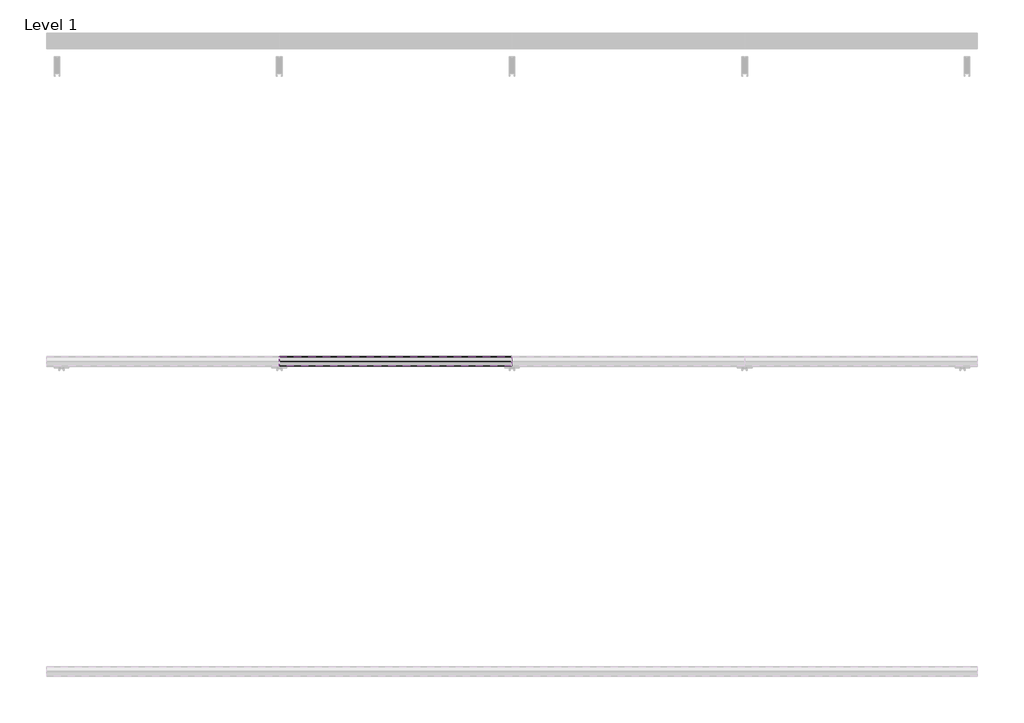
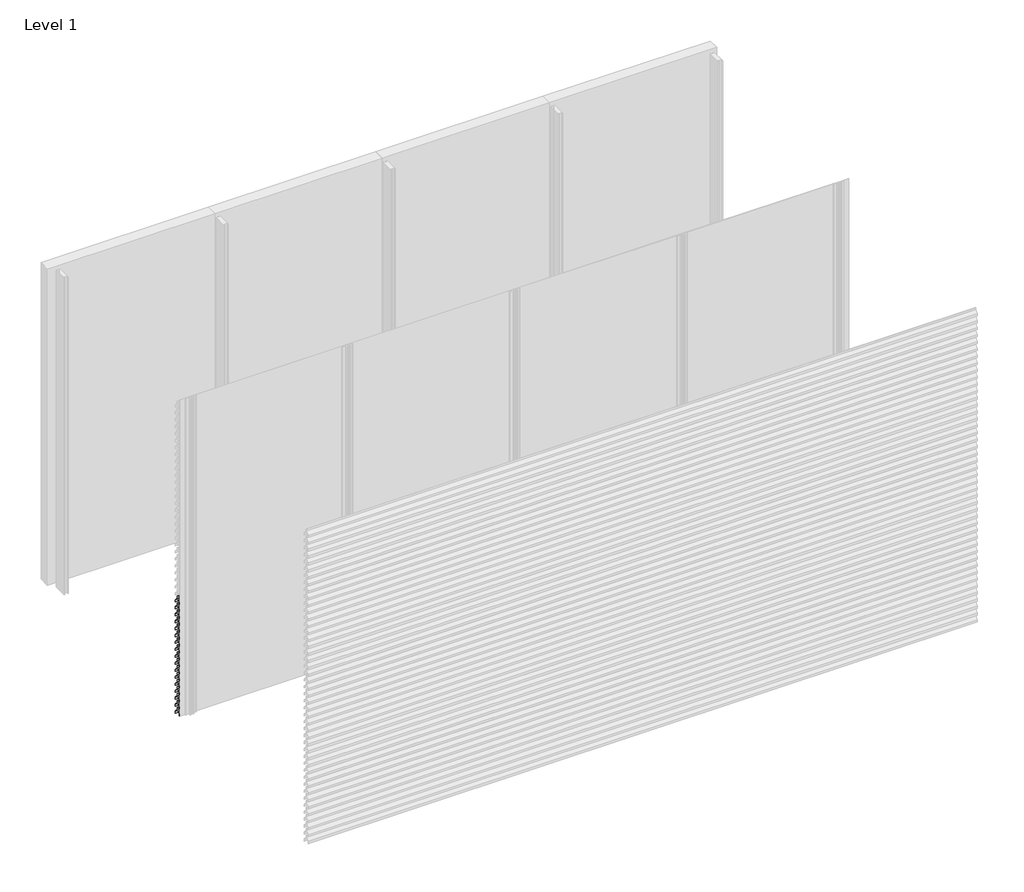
# One storey, part 4 of 35: 70 proxies.
"""IFC4 building model written with IfcOpenShell, lengths in millimetres."""

import ifcopenshell
import ifcopenshell.guid

model = None  # the IFC model being written
_history = None  # IfcOwnerHistory: only IFC2X3 demands one
_inside = {}  # id of a spatial element -> (the spatial element, [elements in it])
_under = {}  # id of a project, library or spatial element -> (it, [spatial elements below it])
_declared = {}  # id of a project -> (the project, [libraries it declares])
_typed = {}  # id of a type object -> (the type object, [elements of that type])
_made_of = {}  # id of a material, layer set ... -> (it, [elements and type objects made of it])


def new_model(schema):
    """Start an empty IFC model of exactly this schema.

    Asked for "IFC4X3", IfcOpenShell would pick the latest addendum, in which some entities
    have other attributes; the version numbers below select the first issue.
    IFC2X3 requires an IfcOwnerHistory on every rooted entity: one is made here for all.
    """
    global model, _history
    if schema == "IFC4X3":
        model = ifcopenshell.file(schema_version=(4, 3, 0, 0))
    else:
        model = ifcopenshell.file(schema=schema)
    _inside.clear()
    _under.clear()
    _declared.clear()
    _typed.clear()
    _made_of.clear()
    _history = None
    if model.schema == "IFC2X3":
        org = make("IfcOrganization", Name="unknown")
        user = make(
            "IfcPersonAndOrganization",
            ThePerson=make("IfcPerson", FamilyName="unknown"),
            TheOrganization=org,
        )
        app = make(
            "IfcApplication",
            ApplicationDeveloper=org,
            Version="unknown",
            ApplicationFullName="unknown",
            ApplicationIdentifier="unknown",
        )
        _history = make(
            "IfcOwnerHistory",
            OwningUser=user,
            OwningApplication=app,
            ChangeAction="ADDED",
            CreationDate=0,
        )
    return model


def make(cls, **values):
    """One entity of the class cls with the attributes given. An attribute that is None is left unset."""
    return model.create_entity(
        cls, **{name: value for name, value in values.items() if value is not None}
    )


def rooted(cls, **values):
    """An entity with a GlobalId (a new one), such as an element, a storey or a relation."""
    return make(cls, GlobalId=ifcopenshell.guid.new(), OwnerHistory=_history, **values)


def si_unit(unit_type, name, prefix=None):
    """IfcSIUnit, for example si_unit("LENGTHUNIT", "METRE", prefix="MILLI")."""
    return make("IfcSIUnit", UnitType=unit_type, Prefix=prefix, Name=name)


def assignment(units):
    """IfcUnitAssignment: the units of a project."""
    return None if units is None else make("IfcUnitAssignment", Units=units)


def point(xyz):
    """IfcCartesianPoint."""
    return None if xyz is None else make("IfcCartesianPoint", Coordinates=xyz)


def direction(xyz):
    """IfcDirection."""
    return None if xyz is None else make("IfcDirection", DirectionRatios=xyz)


def frame(location, z_axis=None, x_axis=None):
    """IfcAxis2Placement3D, a coordinate frame: its origin and axes. An axis left out is left unset."""
    return make(
        "IfcAxis2Placement3D",
        Location=point(location),
        Axis=direction(z_axis),
        RefDirection=direction(x_axis),
    )


def origin():
    """The frame at (0, 0, 0) with its axes left unset."""
    return frame((0.0, 0.0, 0.0))


def place(relative_to, where):
    """IfcLocalPlacement: puts the frame where relative to a parent placement (None: the world)."""
    return make(
        "IfcLocalPlacement", PlacementRelTo=relative_to, RelativePlacement=where
    )


def context(
    kind, dimensions, precision=None, world=None, true_north=None, identifier=None
):
    """IfcGeometricRepresentationContext, for example the 3D "Model" context."""
    return make(
        "IfcGeometricRepresentationContext",
        ContextIdentifier=identifier,
        ContextType=kind,
        CoordinateSpaceDimension=dimensions,
        Precision=precision,
        WorldCoordinateSystem=world,
        TrueNorth=true_north,
    )


def project(units=None, contexts=None):
    """IfcProject with its units and contexts."""
    return rooted(
        "IfcProject",
        Name="project",
        RepresentationContexts=contexts,
        UnitsInContext=assignment(units),
    )


def spatial(cls, under=None, at=None, **own):
    """A site, building, storey or space (cls), placed at a placement, below another one or the project."""
    s = rooted(cls, ObjectPlacement=at, **own)
    if under is not None:
        _under.setdefault(under.id(), (under, []))[1].append(s)
    return s


def polyline(points):
    """IfcPolyline through the points."""
    return make("IfcPolyline", Points=[point(p) for p in points])


def outline(outer, holes=None, kind="AREA"):
    """IfcArbitraryClosedProfileDef: a profile drawn as a closed curve; with holes, ...WithVoids."""
    if holes is None:
        return make("IfcArbitraryClosedProfileDef", ProfileType=kind, OuterCurve=outer)
    return make(
        "IfcArbitraryProfileDefWithVoids",
        ProfileType=kind,
        OuterCurve=outer,
        InnerCurves=holes,
    )


def extrude(swept, where, along, depth):
    """IfcExtrudedAreaSolid: the profile swept, set in the frame where, extruded along a direction by depth."""
    return make(
        "IfcExtrudedAreaSolid",
        SweptArea=swept,
        Position=where,
        ExtrudedDirection=direction(along),
        Depth=depth,
    )


def shape(context_of_items, identifier, shape_type, items):
    """IfcShapeRepresentation: the items that make up one representation, for example the "Body"."""
    return make(
        "IfcShapeRepresentation",
        ContextOfItems=context_of_items,
        RepresentationIdentifier=identifier,
        RepresentationType=shape_type,
        Items=items,
    )


def made_of(thing, what):
    """Note that an element or type object is made of a material, layer set ...; save() writes the relation."""
    if what is not None:
        _made_of.setdefault(what.id(), (what, []))[1].append(thing)
    return thing


def element(
    cls,
    number,
    at=None,
    inside=None,
    cuts=None,
    type_object=None,
    material=None,
    context=None,
    identifier="Body",
    shape_type=None,
    held_by="IfcProductDefinitionShape",
    body=None,
    shapes=None,
    **own,
):
    """One element of the class cls, such as IfcWall. Its Tag is "e" and its number.

    at: its placement. inside: the storey or other place that contains it. cuts: it is an
    opening in that element (IfcRelVoidsElement). A single representation is given by context,
    identifier, shape_type and body (its items); several are given by shapes. held_by: the class
    of the entity that holds the representations. save() writes the other relations.
    """
    e = rooted(cls, Tag="e%d" % number, ObjectPlacement=at, **own)
    if body is not None:
        shapes = [shape(context, identifier, shape_type, body)]
    if shapes is not None:
        e.Representation = make(held_by, Representations=shapes)
    if inside is not None:
        _inside.setdefault(inside.id(), (inside, []))[1].append(e)
    if cuts is not None:
        rooted(
            "IfcRelVoidsElement", RelatingBuildingElement=cuts, RelatedOpeningElement=e
        )
    if type_object is not None:
        _typed.setdefault(type_object.id(), (type_object, []))[1].append(e)
    return made_of(e, material)


def aggregate(whole, parts):
    """IfcRelAggregates: a whole, such as a stair, and the parts it consists of."""
    return rooted("IfcRelAggregates", RelatingObject=whole, RelatedObjects=parts)


def save(model, path):
    """Write the relations noted so far, then the file.

    IfcRelAggregates (storeys below a building ...), IfcRelContainedInSpatialStructure (elements
    in a storey), IfcRelDefinesByType, IfcRelAssociatesMaterial and IfcRelDeclares: one each for
    every whole, place, type object, material and project.
    """
    for whole, parts in _under.values():
        aggregate(whole, parts)
    for where, things in _inside.values():
        rooted(
            "IfcRelContainedInSpatialStructure",
            RelatedElements=things,
            RelatingStructure=where,
        )
    for kind, things in _typed.values():
        rooted("IfcRelDefinesByType", RelatedObjects=things, RelatingType=kind)
    for what, things in _made_of.values():
        rooted("IfcRelAssociatesMaterial", RelatedObjects=things, RelatingMaterial=what)
    for by, libraries in _declared.values():
        rooted("IfcRelDeclares", RelatingContext=by, RelatedDefinitions=libraries)
    model.write(path)


model = new_model("IFC4")

# Units and contexts
model_context = context("Model", 3, world=origin())
ifc_project = project(units=[si_unit("LENGTHUNIT", "METRE", prefix="MILLI")], contexts=[model_context])

# Site, building, storey
site = spatial("IfcSite", under=ifc_project)
building = spatial("IfcBuilding", under=site)
storey = spatial("IfcBuildingStorey", under=building, Name="Level 1", Elevation=0.0)

# Proxies
placement = place(None, origin())
element("IfcBuildingElementProxy", 1, Name="Wall Sweeps", at=placement, inside=storey, context=model_context, shape_type="SweptSolid", body=[
    extrude(outline(polyline([(-53936.0, 1068.0), (-53936.0, 1048.0), (-53937.25, 1048.0), (-53937.25, 1067.4342979), (-53968.1138939, 1100.531772), (-53996.7, 1080.4392868), (-53996.7, 1061.6629874), (-53998.0, 1060.8506572), (-53998.0, 1081.1145472), (-53968.537525, 1101.823011), (-53968.537525, 1122.0), (-53967.1772624, 1122.0), (-53967.1772624, 1101.4335207), (-53936.0, 1068.0)])), frame((0.0, 0.0, 0.0), z_axis=(1.0, 0.0, 0.0), x_axis=(0.0, 1.0, 0.0)), (0.0, 0.0, 1.0), 1500.0),
])
element("IfcBuildingElementProxy", 2, Name="Wall Sweeps", at=placement, inside=storey, context=model_context, shape_type="SweptSolid", body=[
    extrude(outline(polyline([(-53936.0, 1002.0), (-53936.0, 982.0), (-53937.25, 982.0), (-53937.25, 1001.4342979), (-53968.1138939, 1034.531772), (-53996.7, 1014.4392868), (-53996.7, 995.6629874), (-53998.0, 994.8506572), (-53998.0, 1015.1145472), (-53968.537525, 1035.823011), (-53968.537525, 1056.0), (-53967.1772624, 1056.0), (-53967.1772624, 1035.4335207), (-53936.0, 1002.0)])), frame((0.0, 0.0, 0.0), z_axis=(1.0, 0.0, 0.0), x_axis=(0.0, 1.0, 0.0)), (0.0, 0.0, 1.0), 1500.0),
])
element("IfcBuildingElementProxy", 3, Name="Wall Sweeps", at=placement, inside=storey, context=model_context, shape_type="SweptSolid", body=[
    extrude(outline(polyline([(-53936.0, 936.0), (-53936.0, 916.0), (-53937.25, 916.0), (-53937.25, 935.4342979), (-53968.1138939, 968.531772), (-53996.7, 948.4392868), (-53996.7, 929.6629874), (-53998.0, 928.8506572), (-53998.0, 949.1145472), (-53968.537525, 969.823011), (-53968.537525, 990.0), (-53967.1772624, 990.0), (-53967.1772624, 969.4335207), (-53936.0, 936.0)])), frame((0.0, 0.0, 0.0), z_axis=(1.0, 0.0, 0.0), x_axis=(0.0, 1.0, 0.0)), (0.0, 0.0, 1.0), 1500.0),
])
element("IfcBuildingElementProxy", 4, Name="Wall Sweeps", at=placement, inside=storey, context=model_context, shape_type="SweptSolid", body=[
    extrude(outline(polyline([(-53936.0, 870.0), (-53936.0, 850.0), (-53937.25, 850.0), (-53937.25, 869.4342979), (-53968.1138939, 902.531772), (-53996.7, 882.4392868), (-53996.7, 863.6629874), (-53998.0, 862.8506572), (-53998.0, 883.1145472), (-53968.537525, 903.823011), (-53968.537525, 924.0), (-53967.1772624, 924.0), (-53967.1772624, 903.4335207), (-53936.0, 870.0)])), frame((0.0, 0.0, 0.0), z_axis=(1.0, 0.0, 0.0), x_axis=(0.0, 1.0, 0.0)), (0.0, 0.0, 1.0), 1500.0),
])
element("IfcBuildingElementProxy", 5, Name="Wall Sweeps", at=placement, inside=storey, context=model_context, shape_type="SweptSolid", body=[
    extrude(outline(polyline([(-53936.0, 804.0), (-53936.0, 784.0), (-53937.25, 784.0), (-53937.25, 803.4342979), (-53968.1138939, 836.531772), (-53996.7, 816.4392868), (-53996.7, 797.6629874), (-53998.0, 796.8506572), (-53998.0, 817.1145472), (-53968.537525, 837.823011), (-53968.537525, 858.0), (-53967.1772624, 858.0), (-53967.1772624, 837.4335207), (-53936.0, 804.0)])), frame((0.0, 0.0, 0.0), z_axis=(1.0, 0.0, 0.0), x_axis=(0.0, 1.0, 0.0)), (0.0, 0.0, 1.0), 1500.0),
])
element("IfcBuildingElementProxy", 6, Name="Wall Sweeps", at=placement, inside=storey, context=model_context, shape_type="SweptSolid", body=[
    extrude(outline(polyline([(-53936.0, 738.0), (-53936.0, 718.0), (-53937.25, 718.0), (-53937.25, 737.4342979), (-53968.1138939, 770.531772), (-53996.7, 750.4392868), (-53996.7, 731.6629874), (-53998.0, 730.8506572), (-53998.0, 751.1145472), (-53968.537525, 771.823011), (-53968.537525, 792.0), (-53967.1772624, 792.0), (-53967.1772624, 771.4335207), (-53936.0, 738.0)])), frame((0.0, 0.0, 0.0), z_axis=(1.0, 0.0, 0.0), x_axis=(0.0, 1.0, 0.0)), (0.0, 0.0, 1.0), 1500.0),
])
element("IfcBuildingElementProxy", 7, Name="Wall Sweeps", at=placement, inside=storey, context=model_context, shape_type="SweptSolid", body=[
    extrude(outline(polyline([(-53936.0, 672.0), (-53936.0, 652.0), (-53937.25, 652.0), (-53937.25, 671.4342979), (-53968.1138939, 704.531772), (-53996.7, 684.4392868), (-53996.7, 665.6629874), (-53998.0, 664.8506572), (-53998.0, 685.1145472), (-53968.537525, 705.823011), (-53968.537525, 726.0), (-53967.1772624, 726.0), (-53967.1772624, 705.4335207), (-53936.0, 672.0)])), frame((0.0, 0.0, 0.0), z_axis=(1.0, 0.0, 0.0), x_axis=(0.0, 1.0, 0.0)), (0.0, 0.0, 1.0), 1500.0),
])
element("IfcBuildingElementProxy", 8, Name="Wall Sweeps", at=placement, inside=storey, context=model_context, shape_type="SweptSolid", body=[
    extrude(outline(polyline([(-53936.0, 606.0), (-53936.0, 586.0), (-53937.25, 586.0), (-53937.25, 605.4342979), (-53968.1138939, 638.531772), (-53996.7, 618.4392868), (-53996.7, 599.6629874), (-53998.0, 598.8506572), (-53998.0, 619.1145472), (-53968.537525, 639.823011), (-53968.537525, 660.0), (-53967.1772624, 660.0), (-53967.1772624, 639.4335207), (-53936.0, 606.0)])), frame((0.0, 0.0, 0.0), z_axis=(1.0, 0.0, 0.0), x_axis=(0.0, 1.0, 0.0)), (0.0, 0.0, 1.0), 1500.0),
])
element("IfcBuildingElementProxy", 9, Name="Wall Sweeps", at=placement, inside=storey, context=model_context, shape_type="SweptSolid", body=[
    extrude(outline(polyline([(-53936.0, 540.0), (-53936.0, 520.0), (-53937.25, 520.0), (-53937.25, 539.4342979), (-53968.1138939, 572.531772), (-53996.7, 552.4392868), (-53996.7, 533.6629874), (-53998.0, 532.8506572), (-53998.0, 553.1145472), (-53968.537525, 573.823011), (-53968.537525, 594.0), (-53967.1772624, 594.0), (-53967.1772624, 573.4335207), (-53936.0, 540.0)])), frame((0.0, 0.0, 0.0), z_axis=(1.0, 0.0, 0.0), x_axis=(0.0, 1.0, 0.0)), (0.0, 0.0, 1.0), 1500.0),
])
element("IfcBuildingElementProxy", 10, Name="Wall Sweeps", at=placement, inside=storey, context=model_context, shape_type="SweptSolid", body=[
    extrude(outline(polyline([(-53936.0, 474.0), (-53936.0, 454.0), (-53937.25, 454.0), (-53937.25, 473.4342979), (-53968.1138939, 506.531772), (-53996.7, 486.4392868), (-53996.7, 467.6629874), (-53998.0, 466.8506572), (-53998.0, 487.1145472), (-53968.537525, 507.823011), (-53968.537525, 528.0), (-53967.1772624, 528.0), (-53967.1772624, 507.4335207), (-53936.0, 474.0)])), frame((0.0, 0.0, 0.0), z_axis=(1.0, 0.0, 0.0), x_axis=(0.0, 1.0, 0.0)), (0.0, 0.0, 1.0), 1500.0),
])
element("IfcBuildingElementProxy", 11, Name="Wall Sweeps", at=placement, inside=storey, context=model_context, shape_type="SweptSolid", body=[
    extrude(outline(polyline([(-53936.0, 408.0), (-53936.0, 388.0), (-53937.25, 388.0), (-53937.25, 407.4342979), (-53968.1138939, 440.531772), (-53996.7, 420.4392868), (-53996.7, 401.6629874), (-53998.0, 400.8506572), (-53998.0, 421.1145472), (-53968.537525, 441.823011), (-53968.537525, 462.0), (-53967.1772624, 462.0), (-53967.1772624, 441.4335207), (-53936.0, 408.0)])), frame((0.0, 0.0, 0.0), z_axis=(1.0, 0.0, 0.0), x_axis=(0.0, 1.0, 0.0)), (0.0, 0.0, 1.0), 1500.0),
])
element("IfcBuildingElementProxy", 12, Name="Wall Sweeps", at=placement, inside=storey, context=model_context, shape_type="SweptSolid", body=[
    extrude(outline(polyline([(-53936.0, 342.0), (-53936.0, 322.0), (-53937.25, 322.0), (-53937.25, 341.4342979), (-53968.1138939, 374.531772), (-53996.7, 354.4392868), (-53996.7, 335.6629874), (-53998.0, 334.8506572), (-53998.0, 355.1145472), (-53968.537525, 375.823011), (-53968.537525, 396.0), (-53967.1772624, 396.0), (-53967.1772624, 375.4335207), (-53936.0, 342.0)])), frame((0.0, 0.0, 0.0), z_axis=(1.0, 0.0, 0.0), x_axis=(0.0, 1.0, 0.0)), (0.0, 0.0, 1.0), 1500.0),
])
element("IfcBuildingElementProxy", 13, Name="Wall Sweeps", at=placement, inside=storey, context=model_context, shape_type="SweptSolid", body=[
    extrude(outline(polyline([(-53936.0, 276.0), (-53936.0, 256.0), (-53937.25, 256.0), (-53937.25, 275.4342979), (-53968.1138939, 308.531772), (-53996.7, 288.4392868), (-53996.7, 269.6629874), (-53998.0, 268.8506572), (-53998.0, 289.1145472), (-53968.537525, 309.823011), (-53968.537525, 330.0), (-53967.1772624, 330.0), (-53967.1772624, 309.4335207), (-53936.0, 276.0)])), frame((0.0, 0.0, 0.0), z_axis=(1.0, 0.0, 0.0), x_axis=(0.0, 1.0, 0.0)), (0.0, 0.0, 1.0), 1500.0),
])
element("IfcBuildingElementProxy", 14, Name="Wall Sweeps", at=placement, inside=storey, context=model_context, shape_type="SweptSolid", body=[
    extrude(outline(polyline([(-53936.0, 210.0), (-53936.0, 190.0), (-53937.25, 190.0), (-53937.25, 209.4342979), (-53968.1138939, 242.531772), (-53996.7, 222.4392868), (-53996.7, 203.6629874), (-53998.0, 202.8506572), (-53998.0, 223.1145472), (-53968.537525, 243.823011), (-53968.537525, 264.0), (-53967.1772624, 264.0), (-53967.1772624, 243.4335207), (-53936.0, 210.0)])), frame((0.0, 0.0, 0.0), z_axis=(1.0, 0.0, 0.0), x_axis=(0.0, 1.0, 0.0)), (0.0, 0.0, 1.0), 1500.0),
])
element("IfcBuildingElementProxy", 15, Name="Wall Sweeps", at=placement, inside=storey, context=model_context, shape_type="SweptSolid", body=[
    extrude(outline(polyline([(-53936.0, 144.0), (-53936.0, 124.0), (-53937.25, 124.0), (-53937.25, 143.4342979), (-53968.1138939, 176.531772), (-53996.7, 156.4392868), (-53996.7, 137.6629874), (-53998.0, 136.8506572), (-53998.0, 157.1145472), (-53968.537525, 177.823011), (-53968.537525, 198.0), (-53967.1772624, 198.0), (-53967.1772624, 177.4335207), (-53936.0, 144.0)])), frame((0.0, 0.0, 0.0), z_axis=(1.0, 0.0, 0.0), x_axis=(0.0, 1.0, 0.0)), (0.0, 0.0, 1.0), 1500.0),
])
element("IfcBuildingElementProxy", 16, Name="Wall Sweeps", at=placement, inside=storey, context=model_context, shape_type="SweptSolid", body=[
    extrude(outline(polyline([(-53936.0, 78.0), (-53936.0, 58.0), (-53937.25, 58.0), (-53937.25, 77.4342979), (-53968.1138939, 110.531772), (-53996.7, 90.4392868), (-53996.7, 71.6629874), (-53998.0, 70.8506572), (-53998.0, 91.1145472), (-53968.537525, 111.823011), (-53968.537525, 132.0), (-53967.1772624, 132.0), (-53967.1772624, 111.4335207), (-53936.0, 78.0)])), frame((0.0, 0.0, 0.0), z_axis=(1.0, 0.0, 0.0), x_axis=(0.0, 1.0, 0.0)), (0.0, 0.0, 1.0), 1500.0),
])
element("IfcBuildingElementProxy", 17, Name="Wall Sweeps", at=placement, inside=storey, context=model_context, shape_type="SweptSolid", body=[
    extrude(outline(polyline([(-53936.0, 12.0), (-53936.0, -8.0), (-53937.25, -8.0), (-53937.25, 11.4342979), (-53968.1138939, 44.531772), (-53996.7, 24.4392868), (-53996.7, 5.6629874), (-53998.0, 4.8506572), (-53998.0, 25.1145472), (-53968.537525, 45.823011), (-53968.537525, 66.0), (-53967.1772624, 66.0), (-53967.1772624, 45.4335207), (-53936.0, 12.0)])), frame((0.0, 0.0, 0.0), z_axis=(1.0, 0.0, 0.0), x_axis=(0.0, 1.0, 0.0)), (0.0, 0.0, 1.0), 1500.0),
])
element("IfcBuildingElementProxy", 18, Name="Wall Sweeps", at=placement, inside=storey, context=model_context, shape_type="SweptSolid", body=[
    extrude(outline(polyline([(-53936.0, 2916.0), (-53936.0, 2896.0), (-53937.25, 2896.0), (-53937.25, 2915.4342979), (-53968.1138939, 2948.531772), (-53996.7, 2928.4392868), (-53996.7, 2909.6629874), (-53998.0, 2908.8506572), (-53998.0, 2929.1145472), (-53968.537525, 2949.823011), (-53968.537525, 2970.0), (-53967.1772624, 2970.0), (-53967.1772624, 2949.4335207), (-53936.0, 2916.0)])), frame((1500.0, 0.0, 0.0), z_axis=(1.0, 0.0, 0.0), x_axis=(0.0, 1.0, 0.0)), (0.0, 0.0, 1.0), 1500.0),
])
element("IfcBuildingElementProxy", 19, Name="Wall Sweeps", at=placement, inside=storey, context=model_context, shape_type="SweptSolid", body=[
    extrude(outline(polyline([(-53936.0, 2850.0), (-53936.0, 2830.0), (-53937.25, 2830.0), (-53937.25, 2849.4342979), (-53968.1138939, 2882.531772), (-53996.7, 2862.4392868), (-53996.7, 2843.6629874), (-53998.0, 2842.8506572), (-53998.0, 2863.1145472), (-53968.537525, 2883.823011), (-53968.537525, 2904.0), (-53967.1772624, 2904.0), (-53967.1772624, 2883.4335207), (-53936.0, 2850.0)])), frame((1500.0, 0.0, 0.0), z_axis=(1.0, 0.0, 0.0), x_axis=(0.0, 1.0, 0.0)), (0.0, 0.0, 1.0), 1500.0),
])
element("IfcBuildingElementProxy", 20, Name="Wall Sweeps", at=placement, inside=storey, context=model_context, shape_type="SweptSolid", body=[
    extrude(outline(polyline([(-53936.0, 2784.0), (-53936.0, 2764.0), (-53937.25, 2764.0), (-53937.25, 2783.4342979), (-53968.1138939, 2816.531772), (-53996.7, 2796.4392868), (-53996.7, 2777.6629874), (-53998.0, 2776.8506572), (-53998.0, 2797.1145472), (-53968.537525, 2817.823011), (-53968.537525, 2838.0), (-53967.1772624, 2838.0), (-53967.1772624, 2817.4335207), (-53936.0, 2784.0)])), frame((1500.0, 0.0, 0.0), z_axis=(1.0, 0.0, 0.0), x_axis=(0.0, 1.0, 0.0)), (0.0, 0.0, 1.0), 1500.0),
])
element("IfcBuildingElementProxy", 21, Name="Wall Sweeps", at=placement, inside=storey, context=model_context, shape_type="SweptSolid", body=[
    extrude(outline(polyline([(-53936.0, 2718.0), (-53936.0, 2698.0), (-53937.25, 2698.0), (-53937.25, 2717.4342979), (-53968.1138939, 2750.531772), (-53996.7, 2730.4392868), (-53996.7, 2711.6629874), (-53998.0, 2710.8506572), (-53998.0, 2731.1145472), (-53968.537525, 2751.823011), (-53968.537525, 2772.0), (-53967.1772624, 2772.0), (-53967.1772624, 2751.4335207), (-53936.0, 2718.0)])), frame((1500.0, 0.0, 0.0), z_axis=(1.0, 0.0, 0.0), x_axis=(0.0, 1.0, 0.0)), (0.0, 0.0, 1.0), 1500.0),
])
element("IfcBuildingElementProxy", 22, Name="Wall Sweeps", at=placement, inside=storey, context=model_context, shape_type="SweptSolid", body=[
    extrude(outline(polyline([(-53936.0, 2652.0), (-53936.0, 2632.0), (-53937.25, 2632.0), (-53937.25, 2651.4342979), (-53968.1138939, 2684.531772), (-53996.7, 2664.4392868), (-53996.7, 2645.6629874), (-53998.0, 2644.8506572), (-53998.0, 2665.1145472), (-53968.537525, 2685.823011), (-53968.537525, 2706.0), (-53967.1772624, 2706.0), (-53967.1772624, 2685.4335207), (-53936.0, 2652.0)])), frame((1500.0, 0.0, 0.0), z_axis=(1.0, 0.0, 0.0), x_axis=(0.0, 1.0, 0.0)), (0.0, 0.0, 1.0), 1500.0),
])
element("IfcBuildingElementProxy", 23, Name="Wall Sweeps", at=placement, inside=storey, context=model_context, shape_type="SweptSolid", body=[
    extrude(outline(polyline([(-53936.0, 2586.0), (-53936.0, 2566.0), (-53937.25, 2566.0), (-53937.25, 2585.4342979), (-53968.1138939, 2618.531772), (-53996.7, 2598.4392868), (-53996.7, 2579.6629874), (-53998.0, 2578.8506572), (-53998.0, 2599.1145472), (-53968.537525, 2619.823011), (-53968.537525, 2640.0), (-53967.1772624, 2640.0), (-53967.1772624, 2619.4335207), (-53936.0, 2586.0)])), frame((1500.0, 0.0, 0.0), z_axis=(1.0, 0.0, 0.0), x_axis=(0.0, 1.0, 0.0)), (0.0, 0.0, 1.0), 1500.0),
])
element("IfcBuildingElementProxy", 24, Name="Wall Sweeps", at=placement, inside=storey, context=model_context, shape_type="SweptSolid", body=[
    extrude(outline(polyline([(-53936.0, 2520.0), (-53936.0, 2500.0), (-53937.25, 2500.0), (-53937.25, 2519.4342979), (-53968.1138939, 2552.531772), (-53996.7, 2532.4392868), (-53996.7, 2513.6629874), (-53998.0, 2512.8506572), (-53998.0, 2533.1145472), (-53968.537525, 2553.823011), (-53968.537525, 2574.0), (-53967.1772624, 2574.0), (-53967.1772624, 2553.4335207), (-53936.0, 2520.0)])), frame((1500.0, 0.0, 0.0), z_axis=(1.0, 0.0, 0.0), x_axis=(0.0, 1.0, 0.0)), (0.0, 0.0, 1.0), 1500.0),
])
element("IfcBuildingElementProxy", 25, Name="Wall Sweeps", at=placement, inside=storey, context=model_context, shape_type="SweptSolid", body=[
    extrude(outline(polyline([(-53936.0, 2454.0), (-53936.0, 2434.0), (-53937.25, 2434.0), (-53937.25, 2453.4342979), (-53968.1138939, 2486.531772), (-53996.7, 2466.4392868), (-53996.7, 2447.6629874), (-53998.0, 2446.8506572), (-53998.0, 2467.1145472), (-53968.537525, 2487.823011), (-53968.537525, 2508.0), (-53967.1772624, 2508.0), (-53967.1772624, 2487.4335207), (-53936.0, 2454.0)])), frame((1500.0, 0.0, 0.0), z_axis=(1.0, 0.0, 0.0), x_axis=(0.0, 1.0, 0.0)), (0.0, 0.0, 1.0), 1500.0),
])
element("IfcBuildingElementProxy", 26, Name="Wall Sweeps", at=placement, inside=storey, context=model_context, shape_type="SweptSolid", body=[
    extrude(outline(polyline([(-53936.0, 2388.0), (-53936.0, 2368.0), (-53937.25, 2368.0), (-53937.25, 2387.4342979), (-53968.1138939, 2420.531772), (-53996.7, 2400.4392868), (-53996.7, 2381.6629874), (-53998.0, 2380.8506572), (-53998.0, 2401.1145472), (-53968.537525, 2421.823011), (-53968.537525, 2442.0), (-53967.1772624, 2442.0), (-53967.1772624, 2421.4335207), (-53936.0, 2388.0)])), frame((1500.0, 0.0, 0.0), z_axis=(1.0, 0.0, 0.0), x_axis=(0.0, 1.0, 0.0)), (0.0, 0.0, 1.0), 1500.0),
])
element("IfcBuildingElementProxy", 27, Name="Wall Sweeps", at=placement, inside=storey, context=model_context, shape_type="SweptSolid", body=[
    extrude(outline(polyline([(-53936.0, 2322.0), (-53936.0, 2302.0), (-53937.25, 2302.0), (-53937.25, 2321.4342979), (-53968.1138939, 2354.531772), (-53996.7, 2334.4392868), (-53996.7, 2315.6629874), (-53998.0, 2314.8506572), (-53998.0, 2335.1145472), (-53968.537525, 2355.823011), (-53968.537525, 2376.0), (-53967.1772624, 2376.0), (-53967.1772624, 2355.4335207), (-53936.0, 2322.0)])), frame((1500.0, 0.0, 0.0), z_axis=(1.0, 0.0, 0.0), x_axis=(0.0, 1.0, 0.0)), (0.0, 0.0, 1.0), 1500.0),
])
element("IfcBuildingElementProxy", 28, Name="Wall Sweeps", at=placement, inside=storey, context=model_context, shape_type="SweptSolid", body=[
    extrude(outline(polyline([(-53936.0, 2256.0), (-53936.0, 2236.0), (-53937.25, 2236.0), (-53937.25, 2255.4342979), (-53968.1138939, 2288.531772), (-53996.7, 2268.4392868), (-53996.7, 2249.6629874), (-53998.0, 2248.8506572), (-53998.0, 2269.1145472), (-53968.537525, 2289.823011), (-53968.537525, 2310.0), (-53967.1772624, 2310.0), (-53967.1772624, 2289.4335207), (-53936.0, 2256.0)])), frame((1500.0, 0.0, 0.0), z_axis=(1.0, 0.0, 0.0), x_axis=(0.0, 1.0, 0.0)), (0.0, 0.0, 1.0), 1500.0),
])
element("IfcBuildingElementProxy", 29, Name="Wall Sweeps", at=placement, inside=storey, context=model_context, shape_type="SweptSolid", body=[
    extrude(outline(polyline([(-53936.0, 2190.0), (-53936.0, 2170.0), (-53937.25, 2170.0), (-53937.25, 2189.4342979), (-53968.1138939, 2222.531772), (-53996.7, 2202.4392868), (-53996.7, 2183.6629874), (-53998.0, 2182.8506572), (-53998.0, 2203.1145472), (-53968.537525, 2223.823011), (-53968.537525, 2244.0), (-53967.1772624, 2244.0), (-53967.1772624, 2223.4335207), (-53936.0, 2190.0)])), frame((1500.0, 0.0, 0.0), z_axis=(1.0, 0.0, 0.0), x_axis=(0.0, 1.0, 0.0)), (0.0, 0.0, 1.0), 1500.0),
])
element("IfcBuildingElementProxy", 30, Name="Wall Sweeps", at=placement, inside=storey, context=model_context, shape_type="SweptSolid", body=[
    extrude(outline(polyline([(-53936.0, 2124.0), (-53936.0, 2104.0), (-53937.25, 2104.0), (-53937.25, 2123.4342979), (-53968.1138939, 2156.531772), (-53996.7, 2136.4392868), (-53996.7, 2117.6629874), (-53998.0, 2116.8506572), (-53998.0, 2137.1145472), (-53968.537525, 2157.823011), (-53968.537525, 2178.0), (-53967.1772624, 2178.0), (-53967.1772624, 2157.4335207), (-53936.0, 2124.0)])), frame((1500.0, 0.0, 0.0), z_axis=(1.0, 0.0, 0.0), x_axis=(0.0, 1.0, 0.0)), (0.0, 0.0, 1.0), 1500.0),
])
element("IfcBuildingElementProxy", 31, Name="Wall Sweeps", at=placement, inside=storey, context=model_context, shape_type="SweptSolid", body=[
    extrude(outline(polyline([(-53936.0, 2058.0), (-53936.0, 2038.0), (-53937.25, 2038.0), (-53937.25, 2057.4342979), (-53968.1138939, 2090.531772), (-53996.7, 2070.4392868), (-53996.7, 2051.6629874), (-53998.0, 2050.8506572), (-53998.0, 2071.1145472), (-53968.537525, 2091.823011), (-53968.537525, 2112.0), (-53967.1772624, 2112.0), (-53967.1772624, 2091.4335207), (-53936.0, 2058.0)])), frame((1500.0, 0.0, 0.0), z_axis=(1.0, 0.0, 0.0), x_axis=(0.0, 1.0, 0.0)), (0.0, 0.0, 1.0), 1500.0),
])
element("IfcBuildingElementProxy", 32, Name="Wall Sweeps", at=placement, inside=storey, context=model_context, shape_type="SweptSolid", body=[
    extrude(outline(polyline([(-53936.0, 1992.0), (-53936.0, 1972.0), (-53937.25, 1972.0), (-53937.25, 1991.4342979), (-53968.1138939, 2024.531772), (-53996.7, 2004.4392868), (-53996.7, 1985.6629874), (-53998.0, 1984.8506572), (-53998.0, 2005.1145472), (-53968.537525, 2025.823011), (-53968.537525, 2046.0), (-53967.1772624, 2046.0), (-53967.1772624, 2025.4335207), (-53936.0, 1992.0)])), frame((1500.0, 0.0, 0.0), z_axis=(1.0, 0.0, 0.0), x_axis=(0.0, 1.0, 0.0)), (0.0, 0.0, 1.0), 1500.0),
])
element("IfcBuildingElementProxy", 33, Name="Wall Sweeps", at=placement, inside=storey, context=model_context, shape_type="SweptSolid", body=[
    extrude(outline(polyline([(-53936.0, 1926.0), (-53936.0, 1906.0), (-53937.25, 1906.0), (-53937.25, 1925.4342979), (-53968.1138939, 1958.531772), (-53996.7, 1938.4392868), (-53996.7, 1919.6629874), (-53998.0, 1918.8506572), (-53998.0, 1939.1145472), (-53968.537525, 1959.823011), (-53968.537525, 1980.0), (-53967.1772624, 1980.0), (-53967.1772624, 1959.4335207), (-53936.0, 1926.0)])), frame((1500.0, 0.0, 0.0), z_axis=(1.0, 0.0, 0.0), x_axis=(0.0, 1.0, 0.0)), (0.0, 0.0, 1.0), 1500.0),
])
element("IfcBuildingElementProxy", 34, Name="Wall Sweeps", at=placement, inside=storey, context=model_context, shape_type="SweptSolid", body=[
    extrude(outline(polyline([(-53936.0, 1860.0), (-53936.0, 1840.0), (-53937.25, 1840.0), (-53937.25, 1859.4342979), (-53968.1138939, 1892.531772), (-53996.7, 1872.4392868), (-53996.7, 1853.6629874), (-53998.0, 1852.8506572), (-53998.0, 1873.1145472), (-53968.537525, 1893.823011), (-53968.537525, 1914.0), (-53967.1772624, 1914.0), (-53967.1772624, 1893.4335207), (-53936.0, 1860.0)])), frame((1500.0, 0.0, 0.0), z_axis=(1.0, 0.0, 0.0), x_axis=(0.0, 1.0, 0.0)), (0.0, 0.0, 1.0), 1500.0),
])
element("IfcBuildingElementProxy", 35, Name="Wall Sweeps", at=placement, inside=storey, context=model_context, shape_type="SweptSolid", body=[
    extrude(outline(polyline([(-53936.0, 1794.0), (-53936.0, 1774.0), (-53937.25, 1774.0), (-53937.25, 1793.4342979), (-53968.1138939, 1826.531772), (-53996.7, 1806.4392868), (-53996.7, 1787.6629874), (-53998.0, 1786.8506572), (-53998.0, 1807.1145472), (-53968.537525, 1827.823011), (-53968.537525, 1848.0), (-53967.1772624, 1848.0), (-53967.1772624, 1827.4335207), (-53936.0, 1794.0)])), frame((1500.0, 0.0, 0.0), z_axis=(1.0, 0.0, 0.0), x_axis=(0.0, 1.0, 0.0)), (0.0, 0.0, 1.0), 1500.0),
])
element("IfcBuildingElementProxy", 36, Name="Wall Sweeps", at=placement, inside=storey, context=model_context, shape_type="SweptSolid", body=[
    extrude(outline(polyline([(-53936.0, 1728.0), (-53936.0, 1708.0), (-53937.25, 1708.0), (-53937.25, 1727.4342979), (-53968.1138939, 1760.531772), (-53996.7, 1740.4392868), (-53996.7, 1721.6629874), (-53998.0, 1720.8506572), (-53998.0, 1741.1145472), (-53968.537525, 1761.823011), (-53968.537525, 1782.0), (-53967.1772624, 1782.0), (-53967.1772624, 1761.4335207), (-53936.0, 1728.0)])), frame((1500.0, 0.0, 0.0), z_axis=(1.0, 0.0, 0.0), x_axis=(0.0, 1.0, 0.0)), (0.0, 0.0, 1.0), 1500.0),
])
element("IfcBuildingElementProxy", 37, Name="Wall Sweeps", at=placement, inside=storey, context=model_context, shape_type="SweptSolid", body=[
    extrude(outline(polyline([(-53936.0, 1662.0), (-53936.0, 1642.0), (-53937.25, 1642.0), (-53937.25, 1661.4342979), (-53968.1138939, 1694.531772), (-53996.7, 1674.4392868), (-53996.7, 1655.6629874), (-53998.0, 1654.8506572), (-53998.0, 1675.1145472), (-53968.537525, 1695.823011), (-53968.537525, 1716.0), (-53967.1772624, 1716.0), (-53967.1772624, 1695.4335207), (-53936.0, 1662.0)])), frame((1500.0, 0.0, 0.0), z_axis=(1.0, 0.0, 0.0), x_axis=(0.0, 1.0, 0.0)), (0.0, 0.0, 1.0), 1500.0),
])
element("IfcBuildingElementProxy", 38, Name="Wall Sweeps", at=placement, inside=storey, context=model_context, shape_type="SweptSolid", body=[
    extrude(outline(polyline([(-53936.0, 1596.0), (-53936.0, 1576.0), (-53937.25, 1576.0), (-53937.25, 1595.4342979), (-53968.1138939, 1628.531772), (-53996.7, 1608.4392868), (-53996.7, 1589.6629874), (-53998.0, 1588.8506572), (-53998.0, 1609.1145472), (-53968.537525, 1629.823011), (-53968.537525, 1650.0), (-53967.1772624, 1650.0), (-53967.1772624, 1629.4335207), (-53936.0, 1596.0)])), frame((1500.0, 0.0, 0.0), z_axis=(1.0, 0.0, 0.0), x_axis=(0.0, 1.0, 0.0)), (0.0, 0.0, 1.0), 1500.0),
])
element("IfcBuildingElementProxy", 39, Name="Wall Sweeps", at=placement, inside=storey, context=model_context, shape_type="SweptSolid", body=[
    extrude(outline(polyline([(-53936.0, 1530.0), (-53936.0, 1510.0), (-53937.25, 1510.0), (-53937.25, 1529.4342979), (-53968.1138939, 1562.531772), (-53996.7, 1542.4392868), (-53996.7, 1523.6629874), (-53998.0, 1522.8506572), (-53998.0, 1543.1145472), (-53968.537525, 1563.823011), (-53968.537525, 1584.0), (-53967.1772624, 1584.0), (-53967.1772624, 1563.4335207), (-53936.0, 1530.0)])), frame((1500.0, 0.0, 0.0), z_axis=(1.0, 0.0, 0.0), x_axis=(0.0, 1.0, 0.0)), (0.0, 0.0, 1.0), 1500.0),
])
element("IfcBuildingElementProxy", 40, Name="Wall Sweeps", at=placement, inside=storey, context=model_context, shape_type="SweptSolid", body=[
    extrude(outline(polyline([(-53936.0, 1464.0), (-53936.0, 1444.0), (-53937.25, 1444.0), (-53937.25, 1463.4342979), (-53968.1138939, 1496.531772), (-53996.7, 1476.4392868), (-53996.7, 1457.6629874), (-53998.0, 1456.8506572), (-53998.0, 1477.1145472), (-53968.537525, 1497.823011), (-53968.537525, 1518.0), (-53967.1772624, 1518.0), (-53967.1772624, 1497.4335207), (-53936.0, 1464.0)])), frame((1500.0, 0.0, 0.0), z_axis=(1.0, 0.0, 0.0), x_axis=(0.0, 1.0, 0.0)), (0.0, 0.0, 1.0), 1500.0),
])
element("IfcBuildingElementProxy", 41, Name="Wall Sweeps", at=placement, inside=storey, context=model_context, shape_type="SweptSolid", body=[
    extrude(outline(polyline([(-53936.0, 1398.0), (-53936.0, 1378.0), (-53937.25, 1378.0), (-53937.25, 1397.4342979), (-53968.1138939, 1430.531772), (-53996.7, 1410.4392868), (-53996.7, 1391.6629874), (-53998.0, 1390.8506572), (-53998.0, 1411.1145472), (-53968.537525, 1431.823011), (-53968.537525, 1452.0), (-53967.1772624, 1452.0), (-53967.1772624, 1431.4335207), (-53936.0, 1398.0)])), frame((1500.0, 0.0, 0.0), z_axis=(1.0, 0.0, 0.0), x_axis=(0.0, 1.0, 0.0)), (0.0, 0.0, 1.0), 1500.0),
])
element("IfcBuildingElementProxy", 42, Name="Wall Sweeps", at=placement, inside=storey, context=model_context, shape_type="SweptSolid", body=[
    extrude(outline(polyline([(-53936.0, 1332.0), (-53936.0, 1312.0), (-53937.25, 1312.0), (-53937.25, 1331.4342979), (-53968.1138939, 1364.531772), (-53996.7, 1344.4392868), (-53996.7, 1325.6629874), (-53998.0, 1324.8506572), (-53998.0, 1345.1145472), (-53968.537525, 1365.823011), (-53968.537525, 1386.0), (-53967.1772624, 1386.0), (-53967.1772624, 1365.4335207), (-53936.0, 1332.0)])), frame((1500.0, 0.0, 0.0), z_axis=(1.0, 0.0, 0.0), x_axis=(0.0, 1.0, 0.0)), (0.0, 0.0, 1.0), 1500.0),
])
element("IfcBuildingElementProxy", 43, Name="Wall Sweeps", at=placement, inside=storey, context=model_context, shape_type="SweptSolid", body=[
    extrude(outline(polyline([(-53936.0, 1266.0), (-53936.0, 1246.0), (-53937.25, 1246.0), (-53937.25, 1265.4342979), (-53968.1138939, 1298.531772), (-53996.7, 1278.4392868), (-53996.7, 1259.6629874), (-53998.0, 1258.8506572), (-53998.0, 1279.1145472), (-53968.537525, 1299.823011), (-53968.537525, 1320.0), (-53967.1772624, 1320.0), (-53967.1772624, 1299.4335207), (-53936.0, 1266.0)])), frame((1500.0, 0.0, 0.0), z_axis=(1.0, 0.0, 0.0), x_axis=(0.0, 1.0, 0.0)), (0.0, 0.0, 1.0), 1500.0),
])
element("IfcBuildingElementProxy", 44, Name="Wall Sweeps", at=placement, inside=storey, context=model_context, shape_type="SweptSolid", body=[
    extrude(outline(polyline([(-53936.0, 1200.0), (-53936.0, 1180.0), (-53937.25, 1180.0), (-53937.25, 1199.4342979), (-53968.1138939, 1232.531772), (-53996.7, 1212.4392868), (-53996.7, 1193.6629874), (-53998.0, 1192.8506572), (-53998.0, 1213.1145472), (-53968.537525, 1233.823011), (-53968.537525, 1254.0), (-53967.1772624, 1254.0), (-53967.1772624, 1233.4335207), (-53936.0, 1200.0)])), frame((1500.0, 0.0, 0.0), z_axis=(1.0, 0.0, 0.0), x_axis=(0.0, 1.0, 0.0)), (0.0, 0.0, 1.0), 1500.0),
])
element("IfcBuildingElementProxy", 45, Name="Wall Sweeps", at=placement, inside=storey, context=model_context, shape_type="SweptSolid", body=[
    extrude(outline(polyline([(-53936.0, 1134.0), (-53936.0, 1114.0), (-53937.25, 1114.0), (-53937.25, 1133.4342979), (-53968.1138939, 1166.531772), (-53996.7, 1146.4392868), (-53996.7, 1127.6629874), (-53998.0, 1126.8506572), (-53998.0, 1147.1145472), (-53968.537525, 1167.823011), (-53968.537525, 1188.0), (-53967.1772624, 1188.0), (-53967.1772624, 1167.4335207), (-53936.0, 1134.0)])), frame((1500.0, 0.0, 0.0), z_axis=(1.0, 0.0, 0.0), x_axis=(0.0, 1.0, 0.0)), (0.0, 0.0, 1.0), 1500.0),
])
element("IfcBuildingElementProxy", 46, Name="Wall Sweeps", at=placement, inside=storey, context=model_context, shape_type="SweptSolid", body=[
    extrude(outline(polyline([(-53936.0, 1068.0), (-53936.0, 1048.0), (-53937.25, 1048.0), (-53937.25, 1067.4342979), (-53968.1138939, 1100.531772), (-53996.7, 1080.4392868), (-53996.7, 1061.6629874), (-53998.0, 1060.8506572), (-53998.0, 1081.1145472), (-53968.537525, 1101.823011), (-53968.537525, 1122.0), (-53967.1772624, 1122.0), (-53967.1772624, 1101.4335207), (-53936.0, 1068.0)])), frame((1500.0, 0.0, 0.0), z_axis=(1.0, 0.0, 0.0), x_axis=(0.0, 1.0, 0.0)), (0.0, 0.0, 1.0), 1500.0),
])
element("IfcBuildingElementProxy", 47, Name="Wall Sweeps", at=placement, inside=storey, context=model_context, shape_type="SweptSolid", body=[
    extrude(outline(polyline([(-53936.0, 1002.0), (-53936.0, 982.0), (-53937.25, 982.0), (-53937.25, 1001.4342979), (-53968.1138939, 1034.531772), (-53996.7, 1014.4392868), (-53996.7, 995.6629874), (-53998.0, 994.8506572), (-53998.0, 1015.1145472), (-53968.537525, 1035.823011), (-53968.537525, 1056.0), (-53967.1772624, 1056.0), (-53967.1772624, 1035.4335207), (-53936.0, 1002.0)])), frame((1500.0, 0.0, 0.0), z_axis=(1.0, 0.0, 0.0), x_axis=(0.0, 1.0, 0.0)), (0.0, 0.0, 1.0), 1500.0),
])
element("IfcBuildingElementProxy", 48, Name="Wall Sweeps", at=placement, inside=storey, context=model_context, shape_type="SweptSolid", body=[
    extrude(outline(polyline([(-53936.0, 936.0), (-53936.0, 916.0), (-53937.25, 916.0), (-53937.25, 935.4342979), (-53968.1138939, 968.531772), (-53996.7, 948.4392868), (-53996.7, 929.6629874), (-53998.0, 928.8506572), (-53998.0, 949.1145472), (-53968.537525, 969.823011), (-53968.537525, 990.0), (-53967.1772624, 990.0), (-53967.1772624, 969.4335207), (-53936.0, 936.0)])), frame((1500.0, 0.0, 0.0), z_axis=(1.0, 0.0, 0.0), x_axis=(0.0, 1.0, 0.0)), (0.0, 0.0, 1.0), 1500.0),
])
element("IfcBuildingElementProxy", 49, Name="Wall Sweeps", at=placement, inside=storey, context=model_context, shape_type="SweptSolid", body=[
    extrude(outline(polyline([(-53936.0, 870.0), (-53936.0, 850.0), (-53937.25, 850.0), (-53937.25, 869.4342979), (-53968.1138939, 902.531772), (-53996.7, 882.4392868), (-53996.7, 863.6629874), (-53998.0, 862.8506572), (-53998.0, 883.1145472), (-53968.537525, 903.823011), (-53968.537525, 924.0), (-53967.1772624, 924.0), (-53967.1772624, 903.4335207), (-53936.0, 870.0)])), frame((1500.0, 0.0, 0.0), z_axis=(1.0, 0.0, 0.0), x_axis=(0.0, 1.0, 0.0)), (0.0, 0.0, 1.0), 1500.0),
])
element("IfcBuildingElementProxy", 50, Name="Wall Sweeps", at=placement, inside=storey, context=model_context, shape_type="SweptSolid", body=[
    extrude(outline(polyline([(-53936.0, 804.0), (-53936.0, 784.0), (-53937.25, 784.0), (-53937.25, 803.4342979), (-53968.1138939, 836.531772), (-53996.7, 816.4392868), (-53996.7, 797.6629874), (-53998.0, 796.8506572), (-53998.0, 817.1145472), (-53968.537525, 837.823011), (-53968.537525, 858.0), (-53967.1772624, 858.0), (-53967.1772624, 837.4335207), (-53936.0, 804.0)])), frame((1500.0, 0.0, 0.0), z_axis=(1.0, 0.0, 0.0), x_axis=(0.0, 1.0, 0.0)), (0.0, 0.0, 1.0), 1500.0),
])
element("IfcBuildingElementProxy", 51, Name="Wall Sweeps", at=placement, inside=storey, context=model_context, shape_type="SweptSolid", body=[
    extrude(outline(polyline([(-53936.0, 738.0), (-53936.0, 718.0), (-53937.25, 718.0), (-53937.25, 737.4342979), (-53968.1138939, 770.531772), (-53996.7, 750.4392868), (-53996.7, 731.6629874), (-53998.0, 730.8506572), (-53998.0, 751.1145472), (-53968.537525, 771.823011), (-53968.537525, 792.0), (-53967.1772624, 792.0), (-53967.1772624, 771.4335207), (-53936.0, 738.0)])), frame((1500.0, 0.0, 0.0), z_axis=(1.0, 0.0, 0.0), x_axis=(0.0, 1.0, 0.0)), (0.0, 0.0, 1.0), 1500.0),
])
element("IfcBuildingElementProxy", 52, Name="Wall Sweeps", at=placement, inside=storey, context=model_context, shape_type="SweptSolid", body=[
    extrude(outline(polyline([(-53936.0, 672.0), (-53936.0, 652.0), (-53937.25, 652.0), (-53937.25, 671.4342979), (-53968.1138939, 704.531772), (-53996.7, 684.4392868), (-53996.7, 665.6629874), (-53998.0, 664.8506572), (-53998.0, 685.1145472), (-53968.537525, 705.823011), (-53968.537525, 726.0), (-53967.1772624, 726.0), (-53967.1772624, 705.4335207), (-53936.0, 672.0)])), frame((1500.0, 0.0, 0.0), z_axis=(1.0, 0.0, 0.0), x_axis=(0.0, 1.0, 0.0)), (0.0, 0.0, 1.0), 1500.0),
])
element("IfcBuildingElementProxy", 53, Name="Wall Sweeps", at=placement, inside=storey, context=model_context, shape_type="SweptSolid", body=[
    extrude(outline(polyline([(-53936.0, 606.0), (-53936.0, 586.0), (-53937.25, 586.0), (-53937.25, 605.4342979), (-53968.1138939, 638.531772), (-53996.7, 618.4392868), (-53996.7, 599.6629874), (-53998.0, 598.8506572), (-53998.0, 619.1145472), (-53968.537525, 639.823011), (-53968.537525, 660.0), (-53967.1772624, 660.0), (-53967.1772624, 639.4335207), (-53936.0, 606.0)])), frame((1500.0, 0.0, 0.0), z_axis=(1.0, 0.0, 0.0), x_axis=(0.0, 1.0, 0.0)), (0.0, 0.0, 1.0), 1500.0),
])
element("IfcBuildingElementProxy", 54, Name="Wall Sweeps", at=placement, inside=storey, context=model_context, shape_type="SweptSolid", body=[
    extrude(outline(polyline([(-53936.0, 540.0), (-53936.0, 520.0), (-53937.25, 520.0), (-53937.25, 539.4342979), (-53968.1138939, 572.531772), (-53996.7, 552.4392868), (-53996.7, 533.6629874), (-53998.0, 532.8506572), (-53998.0, 553.1145472), (-53968.537525, 573.823011), (-53968.537525, 594.0), (-53967.1772624, 594.0), (-53967.1772624, 573.4335207), (-53936.0, 540.0)])), frame((1500.0, 0.0, 0.0), z_axis=(1.0, 0.0, 0.0), x_axis=(0.0, 1.0, 0.0)), (0.0, 0.0, 1.0), 1500.0),
])
element("IfcBuildingElementProxy", 55, Name="Wall Sweeps", at=placement, inside=storey, context=model_context, shape_type="SweptSolid", body=[
    extrude(outline(polyline([(-53936.0, 474.0), (-53936.0, 454.0), (-53937.25, 454.0), (-53937.25, 473.4342979), (-53968.1138939, 506.531772), (-53996.7, 486.4392868), (-53996.7, 467.6629874), (-53998.0, 466.8506572), (-53998.0, 487.1145472), (-53968.537525, 507.823011), (-53968.537525, 528.0), (-53967.1772624, 528.0), (-53967.1772624, 507.4335207), (-53936.0, 474.0)])), frame((1500.0, 0.0, 0.0), z_axis=(1.0, 0.0, 0.0), x_axis=(0.0, 1.0, 0.0)), (0.0, 0.0, 1.0), 1500.0),
])
element("IfcBuildingElementProxy", 56, Name="Wall Sweeps", at=placement, inside=storey, context=model_context, shape_type="SweptSolid", body=[
    extrude(outline(polyline([(-53936.0, 408.0), (-53936.0, 388.0), (-53937.25, 388.0), (-53937.25, 407.4342979), (-53968.1138939, 440.531772), (-53996.7, 420.4392868), (-53996.7, 401.6629874), (-53998.0, 400.8506572), (-53998.0, 421.1145472), (-53968.537525, 441.823011), (-53968.537525, 462.0), (-53967.1772624, 462.0), (-53967.1772624, 441.4335207), (-53936.0, 408.0)])), frame((1500.0, 0.0, 0.0), z_axis=(1.0, 0.0, 0.0), x_axis=(0.0, 1.0, 0.0)), (0.0, 0.0, 1.0), 1500.0),
])
element("IfcBuildingElementProxy", 57, Name="Wall Sweeps", at=placement, inside=storey, context=model_context, shape_type="SweptSolid", body=[
    extrude(outline(polyline([(-53936.0, 342.0), (-53936.0, 322.0), (-53937.25, 322.0), (-53937.25, 341.4342979), (-53968.1138939, 374.531772), (-53996.7, 354.4392868), (-53996.7, 335.6629874), (-53998.0, 334.8506572), (-53998.0, 355.1145472), (-53968.537525, 375.823011), (-53968.537525, 396.0), (-53967.1772624, 396.0), (-53967.1772624, 375.4335207), (-53936.0, 342.0)])), frame((1500.0, 0.0, 0.0), z_axis=(1.0, 0.0, 0.0), x_axis=(0.0, 1.0, 0.0)), (0.0, 0.0, 1.0), 1500.0),
])
element("IfcBuildingElementProxy", 58, Name="Wall Sweeps", at=placement, inside=storey, context=model_context, shape_type="SweptSolid", body=[
    extrude(outline(polyline([(-53936.0, 276.0), (-53936.0, 256.0), (-53937.25, 256.0), (-53937.25, 275.4342979), (-53968.1138939, 308.531772), (-53996.7, 288.4392868), (-53996.7, 269.6629874), (-53998.0, 268.8506572), (-53998.0, 289.1145472), (-53968.537525, 309.823011), (-53968.537525, 330.0), (-53967.1772624, 330.0), (-53967.1772624, 309.4335207), (-53936.0, 276.0)])), frame((1500.0, 0.0, 0.0), z_axis=(1.0, 0.0, 0.0), x_axis=(0.0, 1.0, 0.0)), (0.0, 0.0, 1.0), 1500.0),
])
element("IfcBuildingElementProxy", 59, Name="Wall Sweeps", at=placement, inside=storey, context=model_context, shape_type="SweptSolid", body=[
    extrude(outline(polyline([(-53936.0, 210.0), (-53936.0, 190.0), (-53937.25, 190.0), (-53937.25, 209.4342979), (-53968.1138939, 242.531772), (-53996.7, 222.4392868), (-53996.7, 203.6629874), (-53998.0, 202.8506572), (-53998.0, 223.1145472), (-53968.537525, 243.823011), (-53968.537525, 264.0), (-53967.1772624, 264.0), (-53967.1772624, 243.4335207), (-53936.0, 210.0)])), frame((1500.0, 0.0, 0.0), z_axis=(1.0, 0.0, 0.0), x_axis=(0.0, 1.0, 0.0)), (0.0, 0.0, 1.0), 1500.0),
])
element("IfcBuildingElementProxy", 60, Name="Wall Sweeps", at=placement, inside=storey, context=model_context, shape_type="SweptSolid", body=[
    extrude(outline(polyline([(-53936.0, 144.0), (-53936.0, 124.0), (-53937.25, 124.0), (-53937.25, 143.4342979), (-53968.1138939, 176.531772), (-53996.7, 156.4392868), (-53996.7, 137.6629874), (-53998.0, 136.8506572), (-53998.0, 157.1145472), (-53968.537525, 177.823011), (-53968.537525, 198.0), (-53967.1772624, 198.0), (-53967.1772624, 177.4335207), (-53936.0, 144.0)])), frame((1500.0, 0.0, 0.0), z_axis=(1.0, 0.0, 0.0), x_axis=(0.0, 1.0, 0.0)), (0.0, 0.0, 1.0), 1500.0),
])
element("IfcBuildingElementProxy", 61, Name="Wall Sweeps", at=placement, inside=storey, context=model_context, shape_type="SweptSolid", body=[
    extrude(outline(polyline([(-53936.0, 78.0), (-53936.0, 58.0), (-53937.25, 58.0), (-53937.25, 77.4342979), (-53968.1138939, 110.531772), (-53996.7, 90.4392868), (-53996.7, 71.6629874), (-53998.0, 70.8506572), (-53998.0, 91.1145472), (-53968.537525, 111.823011), (-53968.537525, 132.0), (-53967.1772624, 132.0), (-53967.1772624, 111.4335207), (-53936.0, 78.0)])), frame((1500.0, 0.0, 0.0), z_axis=(1.0, 0.0, 0.0), x_axis=(0.0, 1.0, 0.0)), (0.0, 0.0, 1.0), 1500.0),
])
element("IfcBuildingElementProxy", 62, Name="Wall Sweeps", at=placement, inside=storey, context=model_context, shape_type="SweptSolid", body=[
    extrude(outline(polyline([(-53936.0, 12.0), (-53936.0, -8.0), (-53937.25, -8.0), (-53937.25, 11.4342979), (-53968.1138939, 44.531772), (-53996.7, 24.4392868), (-53996.7, 5.6629874), (-53998.0, 4.8506572), (-53998.0, 25.1145472), (-53968.537525, 45.823011), (-53968.537525, 66.0), (-53967.1772624, 66.0), (-53967.1772624, 45.4335207), (-53936.0, 12.0)])), frame((1500.0, 0.0, 0.0), z_axis=(1.0, 0.0, 0.0), x_axis=(0.0, 1.0, 0.0)), (0.0, 0.0, 1.0), 1500.0),
])
element("IfcBuildingElementProxy", 63, Name="Wall Sweeps", at=placement, inside=storey, context=model_context, shape_type="SweptSolid", body=[
    extrude(outline(polyline([(-53936.0, 2916.0), (-53936.0, 2896.0), (-53937.25, 2896.0), (-53937.25, 2915.4342979), (-53968.1138939, 2948.531772), (-53996.7, 2928.4392868), (-53996.7, 2909.6629874), (-53998.0, 2908.8506572), (-53998.0, 2929.1145472), (-53968.537525, 2949.823011), (-53968.537525, 2970.0), (-53967.1772624, 2970.0), (-53967.1772624, 2949.4335207), (-53936.0, 2916.0)])), frame((3000.0, 0.0, 0.0), z_axis=(1.0, 0.0, 0.0), x_axis=(0.0, 1.0, 0.0)), (0.0, 0.0, 1.0), 1500.0),
])
element("IfcBuildingElementProxy", 64, Name="Wall Sweeps", at=placement, inside=storey, context=model_context, shape_type="SweptSolid", body=[
    extrude(outline(polyline([(-53936.0, 2850.0), (-53936.0, 2830.0), (-53937.25, 2830.0), (-53937.25, 2849.4342979), (-53968.1138939, 2882.531772), (-53996.7, 2862.4392868), (-53996.7, 2843.6629874), (-53998.0, 2842.8506572), (-53998.0, 2863.1145472), (-53968.537525, 2883.823011), (-53968.537525, 2904.0), (-53967.1772624, 2904.0), (-53967.1772624, 2883.4335207), (-53936.0, 2850.0)])), frame((3000.0, 0.0, 0.0), z_axis=(1.0, 0.0, 0.0), x_axis=(0.0, 1.0, 0.0)), (0.0, 0.0, 1.0), 1500.0),
])
element("IfcBuildingElementProxy", 65, Name="Wall Sweeps", at=placement, inside=storey, context=model_context, shape_type="SweptSolid", body=[
    extrude(outline(polyline([(-53936.0, 2784.0), (-53936.0, 2764.0), (-53937.25, 2764.0), (-53937.25, 2783.4342979), (-53968.1138939, 2816.531772), (-53996.7, 2796.4392868), (-53996.7, 2777.6629874), (-53998.0, 2776.8506572), (-53998.0, 2797.1145472), (-53968.537525, 2817.823011), (-53968.537525, 2838.0), (-53967.1772624, 2838.0), (-53967.1772624, 2817.4335207), (-53936.0, 2784.0)])), frame((3000.0, 0.0, 0.0), z_axis=(1.0, 0.0, 0.0), x_axis=(0.0, 1.0, 0.0)), (0.0, 0.0, 1.0), 1500.0),
])
element("IfcBuildingElementProxy", 66, Name="Wall Sweeps", at=placement, inside=storey, context=model_context, shape_type="SweptSolid", body=[
    extrude(outline(polyline([(-53936.0, 2718.0), (-53936.0, 2698.0), (-53937.25, 2698.0), (-53937.25, 2717.4342979), (-53968.1138939, 2750.531772), (-53996.7, 2730.4392868), (-53996.7, 2711.6629874), (-53998.0, 2710.8506572), (-53998.0, 2731.1145472), (-53968.537525, 2751.823011), (-53968.537525, 2772.0), (-53967.1772624, 2772.0), (-53967.1772624, 2751.4335207), (-53936.0, 2718.0)])), frame((3000.0, 0.0, 0.0), z_axis=(1.0, 0.0, 0.0), x_axis=(0.0, 1.0, 0.0)), (0.0, 0.0, 1.0), 1500.0),
])
element("IfcBuildingElementProxy", 67, Name="Wall Sweeps", at=placement, inside=storey, context=model_context, shape_type="SweptSolid", body=[
    extrude(outline(polyline([(-53936.0, 2652.0), (-53936.0, 2632.0), (-53937.25, 2632.0), (-53937.25, 2651.4342979), (-53968.1138939, 2684.531772), (-53996.7, 2664.4392868), (-53996.7, 2645.6629874), (-53998.0, 2644.8506572), (-53998.0, 2665.1145472), (-53968.537525, 2685.823011), (-53968.537525, 2706.0), (-53967.1772624, 2706.0), (-53967.1772624, 2685.4335207), (-53936.0, 2652.0)])), frame((3000.0, 0.0, 0.0), z_axis=(1.0, 0.0, 0.0), x_axis=(0.0, 1.0, 0.0)), (0.0, 0.0, 1.0), 1500.0),
])
element("IfcBuildingElementProxy", 68, Name="Wall Sweeps", at=placement, inside=storey, context=model_context, shape_type="SweptSolid", body=[
    extrude(outline(polyline([(-53936.0, 2586.0), (-53936.0, 2566.0), (-53937.25, 2566.0), (-53937.25, 2585.4342979), (-53968.1138939, 2618.531772), (-53996.7, 2598.4392868), (-53996.7, 2579.6629874), (-53998.0, 2578.8506572), (-53998.0, 2599.1145472), (-53968.537525, 2619.823011), (-53968.537525, 2640.0), (-53967.1772624, 2640.0), (-53967.1772624, 2619.4335207), (-53936.0, 2586.0)])), frame((3000.0, 0.0, 0.0), z_axis=(1.0, 0.0, 0.0), x_axis=(0.0, 1.0, 0.0)), (0.0, 0.0, 1.0), 1500.0),
])
element("IfcBuildingElementProxy", 69, Name="Wall Sweeps", at=placement, inside=storey, context=model_context, shape_type="SweptSolid", body=[
    extrude(outline(polyline([(-53936.0, 2520.0), (-53936.0, 2500.0), (-53937.25, 2500.0), (-53937.25, 2519.4342979), (-53968.1138939, 2552.531772), (-53996.7, 2532.4392868), (-53996.7, 2513.6629874), (-53998.0, 2512.8506572), (-53998.0, 2533.1145472), (-53968.537525, 2553.823011), (-53968.537525, 2574.0), (-53967.1772624, 2574.0), (-53967.1772624, 2553.4335207), (-53936.0, 2520.0)])), frame((3000.0, 0.0, 0.0), z_axis=(1.0, 0.0, 0.0), x_axis=(0.0, 1.0, 0.0)), (0.0, 0.0, 1.0), 1500.0),
])
element("IfcBuildingElementProxy", 70, Name="Wall Sweeps", at=placement, inside=storey, context=model_context, shape_type="SweptSolid", body=[
    extrude(outline(polyline([(-53936.0, 2454.0), (-53936.0, 2434.0), (-53937.25, 2434.0), (-53937.25, 2453.4342979), (-53968.1138939, 2486.531772), (-53996.7, 2466.4392868), (-53996.7, 2447.6629874), (-53998.0, 2446.8506572), (-53998.0, 2467.1145472), (-53968.537525, 2487.823011), (-53968.537525, 2508.0), (-53967.1772624, 2508.0), (-53967.1772624, 2487.4335207), (-53936.0, 2454.0)])), frame((3000.0, 0.0, 0.0), z_axis=(1.0, 0.0, 0.0), x_axis=(0.0, 1.0, 0.0)), (0.0, 0.0, 1.0), 1500.0),
])

save(model, "model.ifc")
